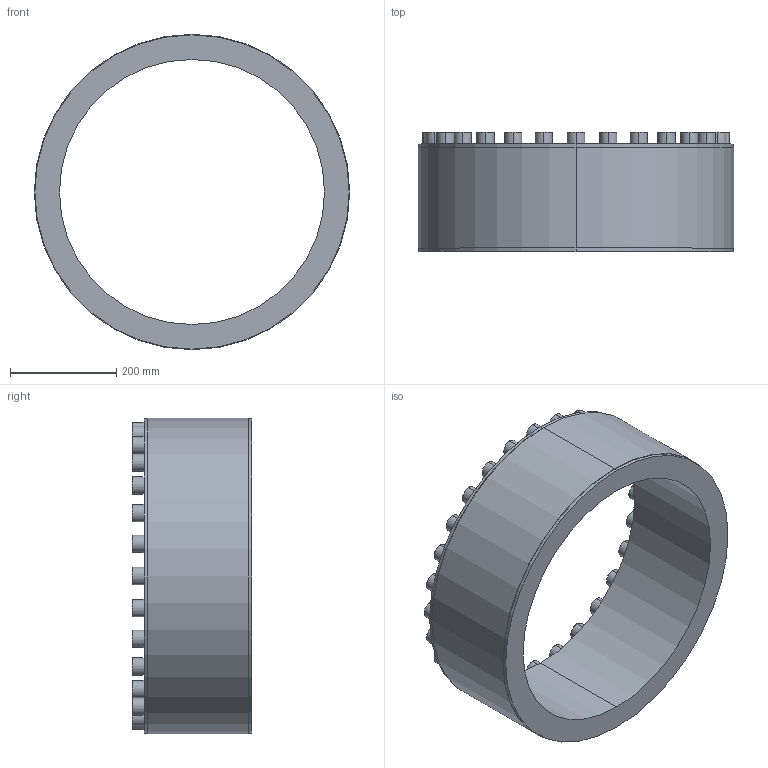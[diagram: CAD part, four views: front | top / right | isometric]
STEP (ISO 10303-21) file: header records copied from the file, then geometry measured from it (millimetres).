
FILE_DESCRIPTION (( 'STEP AP203' ), '1' );
FILE_NAME ('PL-D1 500-595.STEP', '2021-10-23T00:27:59', ( '' ), ( '' ), 'SwSTEP 2.0', 'SolidWorks 2018', '' );
FILE_SCHEMA (( 'CONFIG_CONTROL_DESIGN' ));
Length unit declared in the file: millimetre
Products named in the file (1): PL-D1 500-595
Bounding box: 595 x 225 x 595 mm (x, y, z)
Volume: 17010675.1 mm3; surface area: 943023.6 mm2
Topology: 1 solids, 1 shells, 348 faces, 808 edges, 520 vertices
Faces by surface type: plane 228, cylinder 64, torus 56
Entity records: 9925 total; most frequent: DIRECTION 1746, CARTESIAN_POINT 1677, ORIENTED_EDGE 1616, EDGE_CURVE 808, AXIS2_PLACEMENT_3D 589, VECTOR 568, LINE 568, VERTEX_POINT 520
